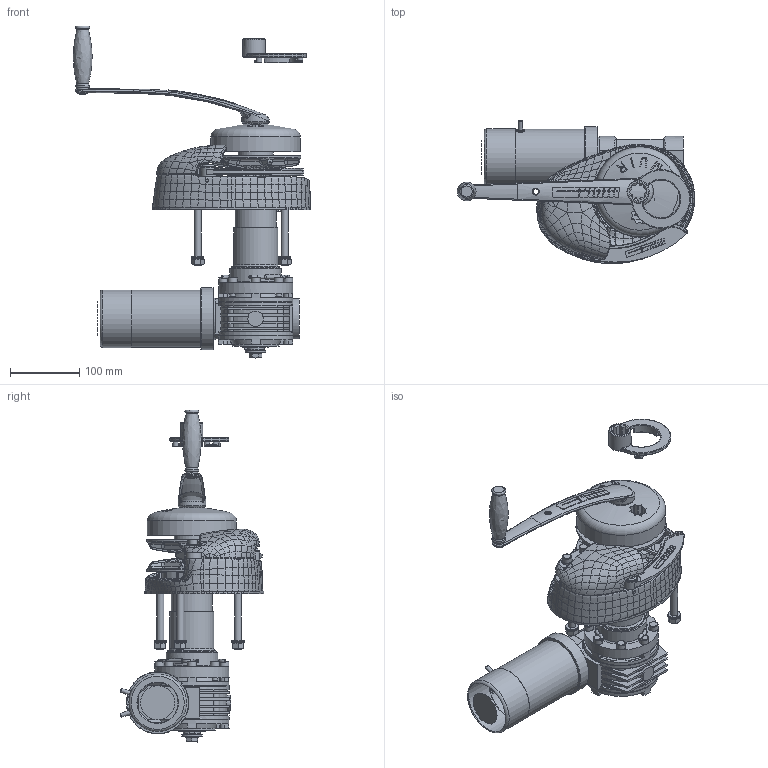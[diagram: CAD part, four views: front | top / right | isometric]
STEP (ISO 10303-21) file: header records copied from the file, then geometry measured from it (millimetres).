
FILE_DESCRIPTION(/* description */ (''),/* implementation_level */ '2;1');
FILE_NAME(/* name */ 'VR850 - 6-8-10mm.stp',/* time_stamp */ '2025-11-28T08:12:15+11:00',/* author */ ('markus.mendgen'),/* organization */ (''),/* preprocessor_version */ 'ST-DEVELOPER v20',/* originating_system */ 'Autodesk Inventor 2025',/* authorisation */ '');
FILE_SCHEMA (('AUTOMOTIVE_DESIGN { 1 0 10303 214 3 1 1 }'));
Length unit declared in the file: millimetre
Products named in the file (1): U001002_Simplify_1
Bounding box: 343.43 x 207.81 x 480.05 mm (x, y, z)
Volume: 3675021.6 mm3; surface area: 568822.3 mm2
Topology: 4 solids, 5 shells, 5022 faces, 12982 edges, 7891 vertices
Faces by surface type: bspline 2058, cylinder 1166, plane 1122, torus 368, sphere 168, cone 140
Full cylindrical faces by diameter (mm): 2 x4, 5 x1, 6 x2, 7.875 x1, 8 x10, 9 x2, 10 x10, 12 x2, 12.2 x1, 13 x11, 15.75 x1, 17 x1, 18 x3, 19 x1, 22 x1, 24.95 x2, 25.06 x1, 25.1 x1, 26.5 x1, 27 x1, 28 x1, 30 x1, 32 x1, 35.05 x1, 36.05 x1, 36.2 x1, 36.6 x1, 40 x2, 44.2 x1, 48.05 x1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
Entity records: 404944 total; most frequent: CARTESIAN_POINT 299124, ORIENTED_EDGE 25650, DIRECTION 16421, EDGE_CURVE 12827, VERTEX_POINT 7880, AXIS2_PLACEMENT_3D 6486, B_SPLINE_CURVE_WITH_KNOTS 5736, EDGE_LOOP 5169
